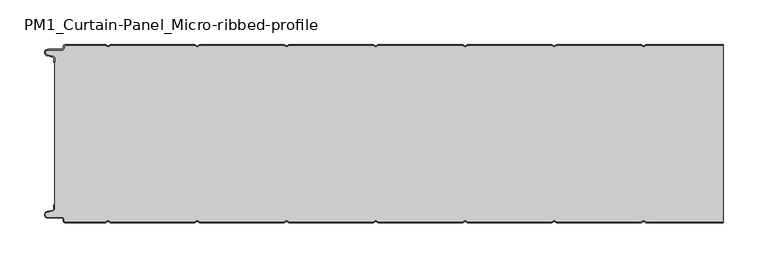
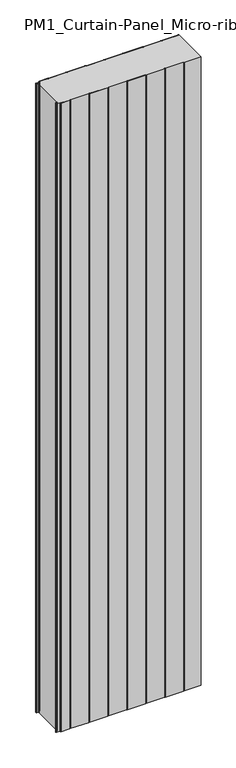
"""IFC4 building model written with IfcOpenShell, lengths in millimetres: plate geometry, PM1_Curtain-Panel_Micro-ribbed-profile : ACH_PM1_Acoustic-Sectioning-Panel_200M."""

from ifc_helpers import new_model, si_unit, point, frame_2d, origin, origin_with_axes, place, context, project, spatial, polyline, circle_curve, trimmed, segment, composite_curve, outline, extrude, source, transform, mapped, element, save


def pm1_curtain_panel_micro_ribbed_profile_ae8438e2(model_context):
    return source(origin(), model_context, "Body", "SweptSolid", [
        extrude(outline(composite_curve([segment(trimmed(circle_curve(frame_2d((-377.0, -15.878557)), 2.0), [point((-375.0, -15.878557))], [point((-376.5500978, -13.9298169))], True, "CARTESIAN"), True, "CONTINUOUS"), segment(polyline([(-376.5500978, -13.9298169), (-382.7098239, -12.507732)]), True, "CONTINUOUS"), segment(trimmed(circle_curve(frame_2d((-381.9, -9.0)), 3.6), [point((-382.7098239, -12.507732))], [point((-381.9, -5.4))], False, "CARTESIAN"), True, "CONTINUOUS"), segment(polyline([(-381.9, -5.4), (-366.4, -5.4)]), True, "CONTINUOUS"), segment(trimmed(circle_curve(frame_2d((-366.4, -3.4)), 2.0), [point((-366.4, -5.4))], [point((-364.4, -3.4))], True, "CARTESIAN"), True, "CONTINUOUS"), segment(polyline([(-364.4, -3.4), (-364.4, -2.0)]), True, "CONTINUOUS"), segment(trimmed(circle_curve(frame_2d((-362.4, -2.0)), 2.0), [point((-364.4, -2.0))], [point((-362.4, 0.0))], False, "CARTESIAN"), True, "CONTINUOUS"), segment(polyline([(-362.4, 0.0), (-317.0999995, 0.0), (-314.4, -1.5588455), (-311.7000005, 0.0), (-217.0999995, 0.0), (-214.4, -1.5588455), (-211.7000005, 0.0), (-117.0999995, 0.0), (-114.4, -1.5588455), (-111.7000005, 0.0), (-17.0999995, 0.0), (-14.4, -1.5588455), (-11.7000005, 0.0), (82.9000005, 0.0), (85.6, -1.5588455), (88.2999995, 0.0), (182.9000005, 0.0), (185.6, -1.5588455), (188.2999995, 0.0), (282.9000005, 0.0), (285.6, -1.5588455), (288.2999995, 0.0), (375.0, 0.0), (375.0, -0.8), (288.5143588, -0.8), (285.6, -2.482606), (282.6856412, -0.8), (188.5143588, -0.8), (185.6, -2.482606), (182.6856412, -0.8), (88.5143588, -0.8), (85.6, -2.482606), (82.6856412, -0.8), (-11.4856412, -0.8), (-14.4, -2.482606), (-17.3143588, -0.8), (-111.4856412, -0.8), (-114.4, -2.482606), (-117.3143588, -0.8), (-211.4856412, -0.8), (-214.4, -2.482606), (-217.3143588, -0.8), (-311.4856412, -0.8), (-314.4, -2.482606), (-317.3143588, -0.8), (-362.4, -0.8)]), True, "CONTINUOUS"), segment(trimmed(circle_curve(frame_2d((-362.4, -2.0)), 1.2), [point((-362.4, -0.8))], [point((-363.6, -2.0))], True, "CARTESIAN"), True, "CONTINUOUS"), segment(polyline([(-363.6, -2.0), (-363.6, -3.4)]), True, "CONTINUOUS"), segment(trimmed(circle_curve(frame_2d((-366.4, -3.4)), 2.8), [point((-363.6, -3.4))], [point((-366.4, -6.2))], False, "CARTESIAN"), True, "CONTINUOUS"), segment(polyline([(-366.4, -6.2), (-381.9, -6.2)]), True, "CONTINUOUS"), segment(trimmed(circle_curve(frame_2d((-381.9, -9.0)), 2.8), [point((-381.9, -6.2))], [point((-382.529863, -11.7282362))], True, "CARTESIAN"), True, "CONTINUOUS"), segment(polyline([(-382.529863, -11.7282362), (-376.370137, -13.150321)]), True, "CONTINUOUS"), segment(trimmed(circle_curve(frame_2d((-377.0, -15.878557)), 2.8), [point((-376.370137, -13.150321))], [point((-374.2, -15.878557))], False, "CARTESIAN"), True, "CONTINUOUS"), segment(polyline([(-374.2, -15.878557), (-374.2, -20.0), (-375.0, -20.0), (-375.0, -15.878557)]), True, "CONTINUOUS")], self_intersect=False)), origin_with_axes(), (0.0, 0.0, 1.0), 3500.0),
        extrude(outline(composite_curve([segment(polyline([(-374.2, -184.1214426), (-374.2, -15.8785573)]), True, "CONTINUOUS"), segment(trimmed(circle_curve(frame_2d((-377.0, -15.8785573)), 2.8), [point((-374.2, -15.8785573))], [point((-376.370137, -13.1503212))], True, "CARTESIAN"), True, "CONTINUOUS"), segment(polyline([(-376.370137, -13.1503212), (-382.5298631, -11.7282362)]), True, "CONTINUOUS"), segment(trimmed(circle_curve(frame_2d((-381.9, -9.0)), 2.8), [point((-382.5298631, -11.7282362))], [point((-381.9, -6.2))], False, "CARTESIAN"), True, "CONTINUOUS"), segment(polyline([(-381.9, -6.2), (-366.4000001, -6.2)]), True, "CONTINUOUS"), segment(trimmed(circle_curve(frame_2d((-366.4000001, -3.4)), 2.8), [point((-366.4000001, -6.2))], [point((-363.6000001, -3.4))], True, "CARTESIAN"), True, "CONTINUOUS"), segment(polyline([(-363.6000001, -3.4), (-363.6000001, -2.0)]), True, "CONTINUOUS"), segment(trimmed(circle_curve(frame_2d((-362.4000001, -2.0)), 1.2), [point((-363.6000001, -2.0))], [point((-362.4000001, -0.8))], False, "CARTESIAN"), True, "CONTINUOUS"), segment(polyline([(-362.4000001, -0.8), (-317.3143589, -0.8), (-314.4000001, -2.482606), (-311.4856412, -0.8), (-217.3143589, -0.8), (-214.4000001, -2.482606), (-211.4856412, -0.8), (-117.3143589, -0.8), (-114.4000001, -2.482606), (-111.4856412, -0.8), (-17.3143589, -0.8), (-14.4000001, -2.482606), (-11.4856412, -0.8), (82.6856411, -0.8), (85.5999999, -2.482606), (88.5143588, -0.8), (182.6856411, -0.8), (185.5999999, -2.482606), (188.5143588, -0.8), (282.6856411, -0.8), (285.5999999, -2.482606), (288.5143588, -0.8), (375.0, -0.8), (375.0, -199.2), (288.5143588, -199.2), (285.5999999, -197.517394), (282.6856411, -199.2), (188.5143588, -199.2), (185.5999999, -197.517394), (182.6856411, -199.2), (88.5143588, -199.2), (85.5999999, -197.517394), (82.6856411, -199.2), (-11.4856412, -199.2), (-14.4000001, -197.517394), (-17.3143589, -199.2), (-111.4856412, -199.2), (-114.4000001, -197.517394), (-117.3143589, -199.2), (-211.4856412, -199.2), (-214.4000001, -197.517394), (-217.3143589, -199.2), (-311.4856412, -199.2), (-314.4000001, -197.517394), (-317.3143589, -199.2), (-362.4000001, -199.2)]), True, "CONTINUOUS"), segment(trimmed(circle_curve(frame_2d((-362.4000001, -198.0)), 1.2), [point((-362.4000001, -199.2))], [point((-363.6000001, -198.0))], False, "CARTESIAN"), True, "CONTINUOUS"), segment(polyline([(-363.6000001, -198.0), (-363.6000001, -196.6)]), True, "CONTINUOUS"), segment(trimmed(circle_curve(frame_2d((-366.4000001, -196.6)), 2.8), [point((-363.6000001, -196.6))], [point((-366.4000001, -193.8))], True, "CARTESIAN"), True, "CONTINUOUS"), segment(polyline([(-366.4000001, -193.8), (-381.9, -193.8)]), True, "CONTINUOUS"), segment(trimmed(circle_curve(frame_2d((-381.9, -191.0)), 2.8), [point((-381.9, -193.8))], [point((-382.5298631, -188.2717638))], False, "CARTESIAN"), True, "CONTINUOUS"), segment(polyline([(-382.5298631, -188.2717638), (-376.370137, -186.8496788)]), True, "CONTINUOUS"), segment(trimmed(circle_curve(frame_2d((-377.0, -184.1214426)), 2.8), [point((-376.370137, -186.8496788))], [point((-374.2, -184.1214426))], True, "CARTESIAN"), True, "CONTINUOUS")], self_intersect=False)), origin_with_axes(), (0.0, 0.0, 1.0), 3500.0),
        extrude(outline(composite_curve([segment(polyline([(-375.0, -184.121443), (-375.0, -180.0), (-374.2, -180.0), (-374.2, -184.121443)]), True, "CONTINUOUS"), segment(trimmed(circle_curve(frame_2d((-377.0, -184.121443)), 2.8), [point((-374.2, -184.121443))], [point((-376.370137, -186.8496792))], False, "CARTESIAN"), True, "CONTINUOUS"), segment(polyline([(-376.370137, -186.8496792), (-382.529863, -188.271764)]), True, "CONTINUOUS"), segment(trimmed(circle_curve(frame_2d((-381.9, -191.0)), 2.8), [point((-382.529863, -188.271764))], [point((-381.9, -193.8))], True, "CARTESIAN"), True, "CONTINUOUS"), segment(polyline([(-381.9, -193.8), (-366.4, -193.8)]), True, "CONTINUOUS"), segment(trimmed(circle_curve(frame_2d((-366.4, -196.6)), 2.8), [point((-366.4, -193.8))], [point((-363.6, -196.6))], False, "CARTESIAN"), True, "CONTINUOUS"), segment(polyline([(-363.6, -196.6), (-363.6, -198.0)]), True, "CONTINUOUS"), segment(trimmed(circle_curve(frame_2d((-362.4, -198.0)), 1.2), [point((-363.6, -198.0))], [point((-362.4, -199.2))], True, "CARTESIAN"), True, "CONTINUOUS"), segment(polyline([(-362.4, -199.2), (-317.3143588, -199.2), (-314.4, -197.517394), (-311.4856412, -199.2), (-217.3143588, -199.2), (-214.4, -197.517394), (-211.4856412, -199.2), (-117.3143588, -199.2), (-114.4, -197.517394), (-111.4856412, -199.2), (-17.3143588, -199.2), (-14.4, -197.517394), (-11.4856412, -199.2), (82.6856412, -199.2), (85.6, -197.517394), (88.5143588, -199.2), (182.6856412, -199.2), (185.6, -197.517394), (188.5143588, -199.2), (282.6856412, -199.2), (285.6, -197.517394), (288.5143588, -199.2), (375.0, -199.2), (375.0, -200.0), (288.2999995, -200.0), (285.6, -198.4411545), (282.9000005, -200.0), (188.2999995, -200.0), (185.6, -198.4411545), (182.9000005, -200.0), (88.2999995, -200.0), (85.6, -198.4411545), (82.9000005, -200.0), (-11.7000005, -200.0), (-14.4, -198.4411545), (-17.0999995, -200.0), (-111.7000005, -200.0), (-114.4, -198.4411545), (-117.0999995, -200.0), (-211.7000005, -200.0), (-214.4, -198.4411545), (-217.0999995, -200.0), (-311.7000005, -200.0), (-314.4, -198.4411545), (-317.0999995, -200.0), (-362.4, -200.0)]), True, "CONTINUOUS"), segment(trimmed(circle_curve(frame_2d((-362.4, -198.0)), 2.0), [point((-362.4, -200.0))], [point((-364.4, -198.0))], False, "CARTESIAN"), True, "CONTINUOUS"), segment(polyline([(-364.4, -198.0), (-364.4, -196.6)]), True, "CONTINUOUS"), segment(trimmed(circle_curve(frame_2d((-366.4, -196.6)), 2.0), [point((-364.4, -196.6))], [point((-366.4, -194.6))], True, "CARTESIAN"), True, "CONTINUOUS"), segment(polyline([(-366.4, -194.6), (-381.9, -194.6)]), True, "CONTINUOUS"), segment(trimmed(circle_curve(frame_2d((-381.9, -191.0)), 3.6), [point((-381.9, -194.6))], [point((-382.7098239, -187.4922678))], False, "CARTESIAN"), True, "CONTINUOUS"), segment(polyline([(-382.7098239, -187.4922678), (-376.5500979, -186.070183)]), True, "CONTINUOUS"), segment(trimmed(circle_curve(frame_2d((-377.0, -184.121443)), 2.0), [point((-376.5500979, -186.070183))], [point((-375.0, -184.121443))], True, "CARTESIAN"), True, "CONTINUOUS")], self_intersect=False)), origin_with_axes(), (0.0, 0.0, 1.0), 3500.0),
    ])


if __name__ == "__main__":
    model = new_model("IFC4")
    model_context = context("Model", 3, world=origin())
    ifc_project = project(units=[si_unit("LENGTHUNIT", "METRE", prefix="MILLI")], contexts=[model_context])
    site = spatial("IfcSite", under=ifc_project)
    building = spatial("IfcBuilding", under=site)
    placement = place(None, origin())
    pm1_curtain_panel_micro_ribbed_profile_shape = pm1_curtain_panel_micro_ribbed_profile_ae8438e2(model_context)
    element("IfcPlate", 1, ObjectType="PM1_Curtain-Panel_Micro-ribbed-profile : ACH_PM1_Acoustic-Sectioning-Panel_200M", at=placement, inside=building, context=model_context, shape_type="MappedRepresentation", body=[
        mapped(pm1_curtain_panel_micro_ribbed_profile_shape, transform((0.0, 0.0, 0.0), x_axis=(1.0, 0.0, 0.0), y_axis=(0.0, 1.0, 0.0), z_axis=(0.0, 0.0, 1.0))),
    ])
    save(model, "model.ifc")
